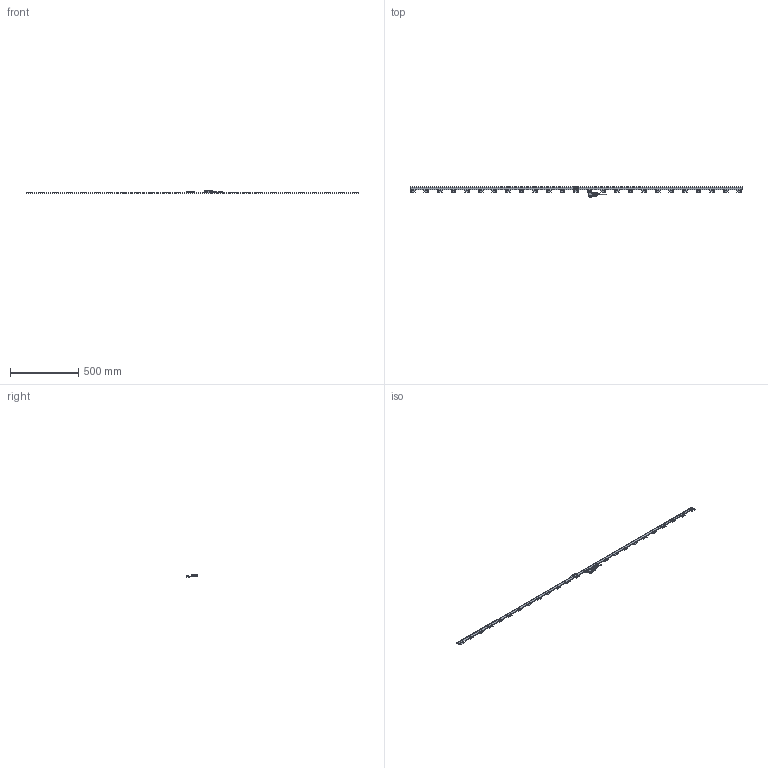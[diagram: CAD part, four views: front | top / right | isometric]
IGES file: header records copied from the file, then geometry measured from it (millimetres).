
Start section: Elysium IGES Interface
Global section: file name: 79H\\Utsu119s\kiyo_cad\data\3D\ST46EZA\HP掲載用_201708\ST46EZA-A\ST46EZA-2400A.igs; native system: Creo Elements/Direct Modeling 18.1B  29-Sep-2012; preprocessor: Creo Element/Direct IGES_3D V2.2; author: Unknown; organization: Unknown; date: 20170912.152404; units: millimetre
Bounding box: 2440 x 78.25 x 21.95 mm (x, y, z)
Volume: 265751.3 mm3; surface area: 173460.7 mm2
Topology: 3 solids, 8 shells, 3307 faces, 9049 edges, 5918 vertices
Faces by surface type: bspline 3307
